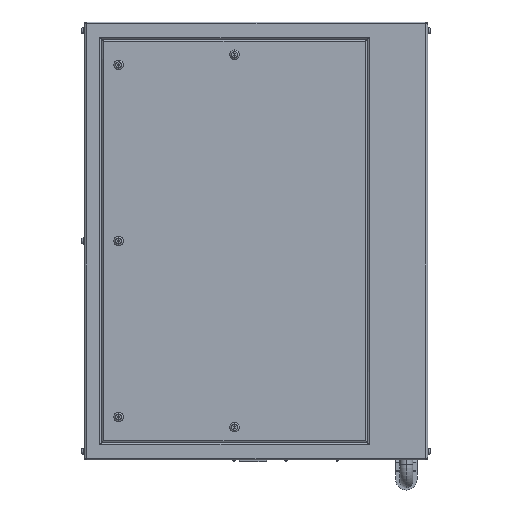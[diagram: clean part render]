
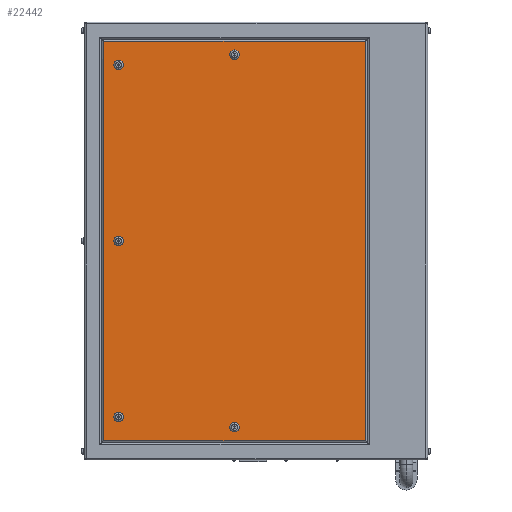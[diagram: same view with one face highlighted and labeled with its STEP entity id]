
A CAD part, left-side view. The second image highlights one B-rep face of the part: STEP entity #22442.
In plain terms, the highlighted planar face has unit normal (-1, 0, 0).
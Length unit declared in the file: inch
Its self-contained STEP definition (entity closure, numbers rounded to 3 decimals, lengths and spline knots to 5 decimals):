
#339 = ORIENTED_EDGE ( 'NONE', *, *, #6589, .T. ) ;
#388 = CARTESIAN_POINT ( 'NONE',  ( -12., 17.74, -25.5 ) ) ;
#403 = CARTESIAN_POINT ( 'NONE',  ( -12., 2.5, -21.69 ) ) ;
#591 = EDGE_CURVE ( 'NONE', #21924, #20890, #17517, .T. ) ;
#610 = CARTESIAN_POINT ( 'NONE',  ( -12., -12.74, -25.5 ) ) ;
#754 = DIRECTION ( 'NONE',  ( 1., 0., 0. ) ) ;
#771 = EDGE_CURVE ( 'NONE', #8778, #3306, #10035, .T. ) ;
#840 = AXIS2_PLACEMENT_3D ( 'NONE', #17305, #20997, #10198 ) ;
#1101 = DIRECTION ( 'NONE',  ( 0., -1., 0. ) ) ;
#1370 = CARTESIAN_POINT ( 'NONE',  ( -12., 16., -0.55 ) ) ;
#1417 = FACE_OUTER_BOUND ( 'NONE', #4527, .T. ) ;
#1448 = DIRECTION ( 'NONE',  ( 0., 1., 0. ) ) ;
#1709 = CARTESIAN_POINT ( 'NONE',  ( -12., 16., 0.55 ) ) ;
#1763 = CARTESIAN_POINT ( 'NONE',  ( -12., 16., 20.5 ) ) ;
#1910 = VERTEX_POINT ( 'NONE', #19105 ) ;
#2442 = CIRCLE ( 'NONE', #15739, 0.55 ) ;
#2572 = AXIS2_PLACEMENT_3D ( 'NONE', #9594, #754, #6388 ) ;
#3101 = CARTESIAN_POINT ( 'NONE',  ( -12., 16., 0. ) ) ;
#3306 = VERTEX_POINT ( 'NONE', #14767 ) ;
#3316 = CARTESIAN_POINT ( 'NONE',  ( -12., 20., -25.5 ) ) ;
#3523 = ORIENTED_EDGE ( 'NONE', *, *, #16931, .T. ) ;
#3746 = EDGE_CURVE ( 'NONE', #7645, #13502, #3781, .T. ) ;
#3751 = LINE ( 'NONE', #388, #18412 ) ;
#3781 = CIRCLE ( 'NONE', #6806, 0.55 ) ;
#3898 = CARTESIAN_POINT ( 'NONE',  ( -12., 16., 0. ) ) ;
#3993 = EDGE_CURVE ( 'NONE', #1910, #5864, #20054, .T. ) ;
#4022 = EDGE_CURVE ( 'NONE', #13502, #7645, #9029, .T. ) ;
#4527 = EDGE_LOOP ( 'NONE', ( #339, #18229, #22502, #15688 ) ) ;
#4555 = CARTESIAN_POINT ( 'NONE',  ( -12., 2.5, 22.24 ) ) ;
#4565 = ORIENTED_EDGE ( 'NONE', *, *, #4022, .T. ) ;
#4772 = CARTESIAN_POINT ( 'NONE',  ( -12., -12.74, 23.24 ) ) ;
#5035 = LINE ( 'NONE', #12282, #7400 ) ;
#5088 = AXIS2_PLACEMENT_3D ( 'NONE', #8679, #6670, #10133 ) ;
#5841 = CIRCLE ( 'NONE', #21404, 0.55 ) ;
#5864 = VERTEX_POINT ( 'NONE', #4555 ) ;
#5974 = AXIS2_PLACEMENT_3D ( 'NONE', #3316, #13769, #10581 ) ;
#6135 = VERTEX_POINT ( 'NONE', #7490 ) ;
#6253 = VERTEX_POINT ( 'NONE', #9221 ) ;
#6388 = DIRECTION ( 'NONE',  ( 0., 0., -1. ) ) ;
#6491 = EDGE_LOOP ( 'NONE', ( #16575, #3523 ) ) ;
#6535 = AXIS2_PLACEMENT_3D ( 'NONE', #10881, #9087, #9336 ) ;
#6558 = FACE_BOUND ( 'NONE', #6491, .T. ) ;
#6589 = EDGE_CURVE ( 'NONE', #6253, #21476, #5035, .T. ) ;
#6670 = DIRECTION ( 'NONE',  ( 1., 0., 0. ) ) ;
#6806 = AXIS2_PLACEMENT_3D ( 'NONE', #7690, #14933, #20776 ) ;
#7044 = EDGE_LOOP ( 'NONE', ( #22154, #23056 ) ) ;
#7350 = DIRECTION ( 'NONE',  ( 0., 0., -1. ) ) ;
#7400 = VECTOR ( 'NONE', #1101, 39.37008 ) ;
#7490 = CARTESIAN_POINT ( 'NONE',  ( -12., 17.74, 23.24 ) ) ;
#7645 = VERTEX_POINT ( 'NONE', #20492 ) ;
#7676 = ORIENTED_EDGE ( 'NONE', *, *, #3746, .T. ) ;
#7678 = DIRECTION ( 'NONE',  ( 1., 0., 0. ) ) ;
#7690 = CARTESIAN_POINT ( 'NONE',  ( -12., 2.5, -21.69 ) ) ;
#8027 = EDGE_LOOP ( 'NONE', ( #14832, #15820 ) ) ;
#8246 = EDGE_CURVE ( 'NONE', #20890, #21924, #16641, .T. ) ;
#8608 = CARTESIAN_POINT ( 'NONE',  ( -12., 16., -21.05 ) ) ;
#8679 = CARTESIAN_POINT ( 'NONE',  ( -12., 16., 20.5 ) ) ;
#8778 = VERTEX_POINT ( 'NONE', #13647 ) ;
#9029 = CIRCLE ( 'NONE', #12823, 0.55 ) ;
#9036 = DIRECTION ( 'NONE',  ( 1., 0., 0. ) ) ;
#9087 = DIRECTION ( 'NONE',  ( 1., 0., 0. ) ) ;
#9221 = CARTESIAN_POINT ( 'NONE',  ( -12., 17.74, -23.24 ) ) ;
#9336 = DIRECTION ( 'NONE',  ( 0., 0., -1. ) ) ;
#9594 = CARTESIAN_POINT ( 'NONE',  ( -12., 2.5, 21.69 ) ) ;
#10035 = CIRCLE ( 'NONE', #5088, 0.55 ) ;
#10133 = DIRECTION ( 'NONE',  ( 0., 0., -1. ) ) ;
#10198 = DIRECTION ( 'NONE',  ( 0., 0., -1. ) ) ;
#10297 = CARTESIAN_POINT ( 'NONE',  ( -12., -12.74, -23.24 ) ) ;
#10446 = EDGE_CURVE ( 'NONE', #6135, #6253, #3751, .T. ) ;
#10497 = LINE ( 'NONE', #17736, #19583 ) ;
#10581 = DIRECTION ( 'NONE',  ( 0., 0., -1. ) ) ;
#10881 = CARTESIAN_POINT ( 'NONE',  ( -12., 16., -20.5 ) ) ;
#11646 = ORIENTED_EDGE ( 'NONE', *, *, #20919, .T. ) ;
#11822 = DIRECTION ( 'NONE',  ( 0., 0., 1. ) ) ;
#11847 = CARTESIAN_POINT ( 'NONE',  ( -12., 2.5, -21.14 ) ) ;
#12134 = FACE_BOUND ( 'NONE', #7044, .T. ) ;
#12282 = CARTESIAN_POINT ( 'NONE',  ( -12., 20., -23.24 ) ) ;
#12468 = AXIS2_PLACEMENT_3D ( 'NONE', #16136, #23405, #21850 ) ;
#12564 = EDGE_CURVE ( 'NONE', #21476, #12921, #20849, .T. ) ;
#12666 = AXIS2_PLACEMENT_3D ( 'NONE', #1763, #9036, #7350 ) ;
#12823 = AXIS2_PLACEMENT_3D ( 'NONE', #403, #7678, #17291 ) ;
#12830 = CARTESIAN_POINT ( 'NONE',  ( -12., 16., -19.95 ) ) ;
#12921 = VERTEX_POINT ( 'NONE', #4772 ) ;
#13420 = DIRECTION ( 'NONE',  ( 0., 0., -1. ) ) ;
#13502 = VERTEX_POINT ( 'NONE', #11847 ) ;
#13647 = CARTESIAN_POINT ( 'NONE',  ( -12., 16., 21.05 ) ) ;
#13769 = DIRECTION ( 'NONE',  ( 1., 0., 0. ) ) ;
#14168 = CIRCLE ( 'NONE', #12666, 0.55 ) ;
#14710 = VECTOR ( 'NONE', #11822, 39.37008 ) ;
#14767 = CARTESIAN_POINT ( 'NONE',  ( -12., 16., 19.95 ) ) ;
#14832 = ORIENTED_EDGE ( 'NONE', *, *, #17254, .T. ) ;
#14933 = DIRECTION ( 'NONE',  ( 1., 0., 0. ) ) ;
#15293 = CIRCLE ( 'NONE', #840, 0.55 ) ;
#15573 = FACE_BOUND ( 'NONE', #8027, .T. ) ;
#15688 = ORIENTED_EDGE ( 'NONE', *, *, #10446, .T. ) ;
#15739 = AXIS2_PLACEMENT_3D ( 'NONE', #3101, #17382, #23085 ) ;
#15820 = ORIENTED_EDGE ( 'NONE', *, *, #18889, .T. ) ;
#16136 = CARTESIAN_POINT ( 'NONE',  ( -12., 16., -20.5 ) ) ;
#16347 = ORIENTED_EDGE ( 'NONE', *, *, #771, .T. ) ;
#16575 = ORIENTED_EDGE ( 'NONE', *, *, #3993, .T. ) ;
#16641 = CIRCLE ( 'NONE', #12468, 0.55 ) ;
#16840 = VERTEX_POINT ( 'NONE', #1370 ) ;
#16931 = EDGE_CURVE ( 'NONE', #5864, #1910, #15293, .T. ) ;
#17254 = EDGE_CURVE ( 'NONE', #16840, #21614, #5841, .T. ) ;
#17291 = DIRECTION ( 'NONE',  ( 0., 0., 1. ) ) ;
#17305 = CARTESIAN_POINT ( 'NONE',  ( -12., 2.5, 21.69 ) ) ;
#17382 = DIRECTION ( 'NONE',  ( 1., 0., 0. ) ) ;
#17517 = CIRCLE ( 'NONE', #6535, 0.55 ) ;
#17573 = EDGE_LOOP ( 'NONE', ( #7676, #4565 ) ) ;
#17701 = FACE_BOUND ( 'NONE', #22816, .T. ) ;
#17736 = CARTESIAN_POINT ( 'NONE',  ( -12., 20., 23.24 ) ) ;
#18229 = ORIENTED_EDGE ( 'NONE', *, *, #12564, .T. ) ;
#18412 = VECTOR ( 'NONE', #13420, 39.37008 ) ;
#18889 = EDGE_CURVE ( 'NONE', #21614, #16840, #2442, .T. ) ;
#19105 = CARTESIAN_POINT ( 'NONE',  ( -12., 2.5, 21.14 ) ) ;
#19583 = VECTOR ( 'NONE', #1448, 39.37008 ) ;
#19620 = PLANE ( 'NONE',  #5974 ) ;
#20054 = CIRCLE ( 'NONE', #2572, 0.55 ) ;
#20076 = DIRECTION ( 'NONE',  ( 1., 0., 0. ) ) ;
#20492 = CARTESIAN_POINT ( 'NONE',  ( -12., 2.5, -22.24 ) ) ;
#20776 = DIRECTION ( 'NONE',  ( 0., 0., 1. ) ) ;
#20849 = LINE ( 'NONE', #610, #14710 ) ;
#20890 = VERTEX_POINT ( 'NONE', #12830 ) ;
#20919 = EDGE_CURVE ( 'NONE', #3306, #8778, #14168, .T. ) ;
#20997 = DIRECTION ( 'NONE',  ( 1., 0., 0. ) ) ;
#21165 = FACE_BOUND ( 'NONE', #17573, .T. ) ;
#21404 = AXIS2_PLACEMENT_3D ( 'NONE', #3898, #20076, #21715 ) ;
#21476 = VERTEX_POINT ( 'NONE', #10297 ) ;
#21614 = VERTEX_POINT ( 'NONE', #1709 ) ;
#21715 = DIRECTION ( 'NONE',  ( 0., 0., -1. ) ) ;
#21850 = DIRECTION ( 'NONE',  ( 0., 0., -1. ) ) ;
#21924 = VERTEX_POINT ( 'NONE', #8608 ) ;
#22154 = ORIENTED_EDGE ( 'NONE', *, *, #591, .T. ) ;
#22442 = ADVANCED_FACE ( 'NONE', ( #21165, #6558, #12134, #15573, #17701, #1417 ), #19620, .F. ) ;
#22502 = ORIENTED_EDGE ( 'NONE', *, *, #22974, .T. ) ;
#22816 = EDGE_LOOP ( 'NONE', ( #11646, #16347 ) ) ;
#22974 = EDGE_CURVE ( 'NONE', #12921, #6135, #10497, .T. ) ;
#23056 = ORIENTED_EDGE ( 'NONE', *, *, #8246, .T. ) ;
#23085 = DIRECTION ( 'NONE',  ( 0., 0., -1. ) ) ;
#23405 = DIRECTION ( 'NONE',  ( 1., 0., 0. ) ) ;
